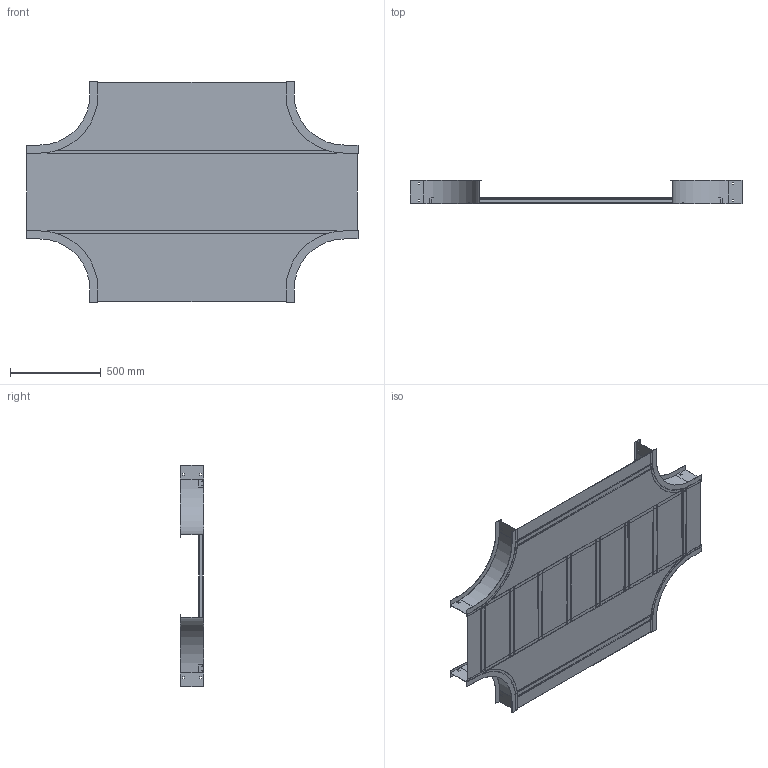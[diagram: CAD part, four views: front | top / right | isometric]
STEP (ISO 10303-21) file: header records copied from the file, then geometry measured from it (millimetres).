
FILE_DESCRIPTION((''),'2;1');
FILE_NAME('AHF51842SEX12_ASM','2010-02-01T',('erouzier'),(''),'PRO/ENGINEER BY PARAMETRIC TECHNOLOGY CORPORATION, 2008510','PRO/ENGINEER BY PARAMETRIC TECHNOLOGY CORPORATION, 2008510','');
FILE_SCHEMA(('CONFIG_CONTROL_DESIGN'));
Length unit declared in the file: inch
Products named in the file (14): CDS001811-5-90-12-I; CDS002159L18_AF8; CDS002159L18_AF9; CDS002159L18_AF10; CDS002159L18_AF11; CDS002159L18_AF12; CDS002159L18_AF13; CDS002159L18_AF14; CDS002159L18_AF15; CDS000495_GEN_AF14; CDS000495_GEN_AF15; CDS002159L42; CDS014308-18-12-42; AHF51842SEX12_ASM
Assembly tree (17 placements, depth 2):
  AHF51842SEX12_ASM
    CDS001811-5-90-12-I  x4
    CDS002159L18_AF8
    CDS002159L18_AF9
    CDS002159L18_AF10
    CDS002159L18_AF11
    CDS002159L18_AF12
    CDS002159L18_AF13
    CDS002159L18_AF14
    CDS002159L18_AF15
    CDS000495_GEN_AF14
    CDS000495_GEN_AF15
    CDS002159L42  x2
    CDS014308-18-12-42
Bounding box: 1832.86 x 129.03 x 1223.26 mm (x, y, z)
Volume: 4199350.4 mm3; surface area: 6334386.3 mm2
Topology: 17 solids, 17 shells, 506 faces, 1416 edges, 944 vertices
Faces by surface type: plane 368, cylinder 138
Entity records: 11563 total; most frequent: CARTESIAN_POINT 2001, DIRECTION 1952, ORIENTED_EDGE 1944, EDGE_CURVE 972, VECTOR 754, LINE 754, VERTEX_POINT 648, AXIS2_PLACEMENT_3D 599
